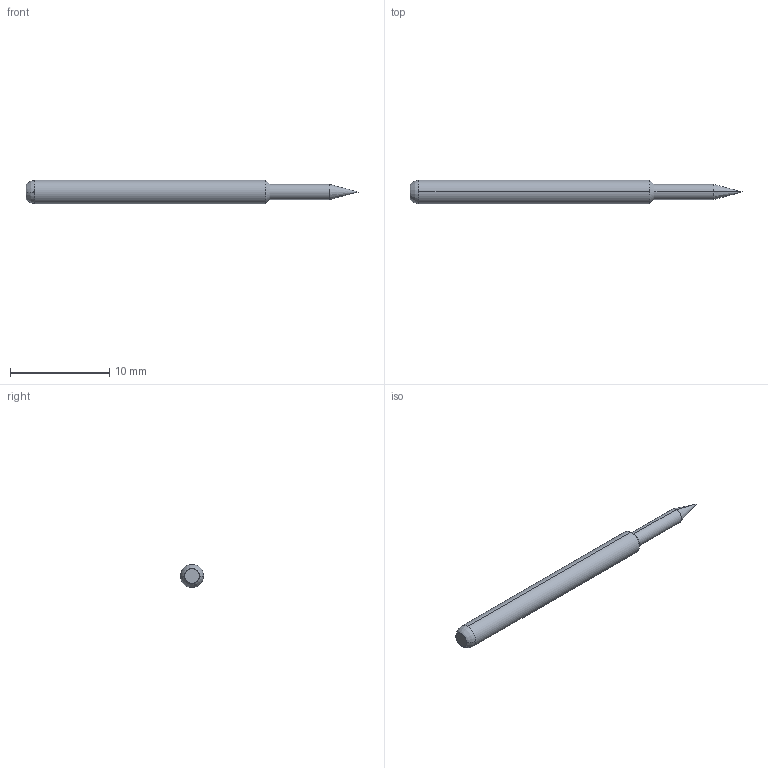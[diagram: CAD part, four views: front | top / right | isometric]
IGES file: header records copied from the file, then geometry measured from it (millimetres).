
Start section: SolidWorks IGES file using analytic representation for surfaces
Global section: file name: Z:\probe solid model mockups\Solidworks models\IGES Files\EPA-4 IGES files\EPA-4B.IGS; native system: SolidWorks 2006 by SolidWorks Corporation; preprocessor: SolidWorks 2006 by SolidWorks Corporation; author: tsakatani; date: 080103.104100; units: inch
Bounding box: 33.53 x 2.36 x 2.36 mm (x, y, z)
Surface area: 221.2 mm2 (no closed solid volume)
Topology: 0 solids, 0 shells, 11 faces, 60 edges, 58 vertices
Faces by surface type: revolution 10, bspline 1
